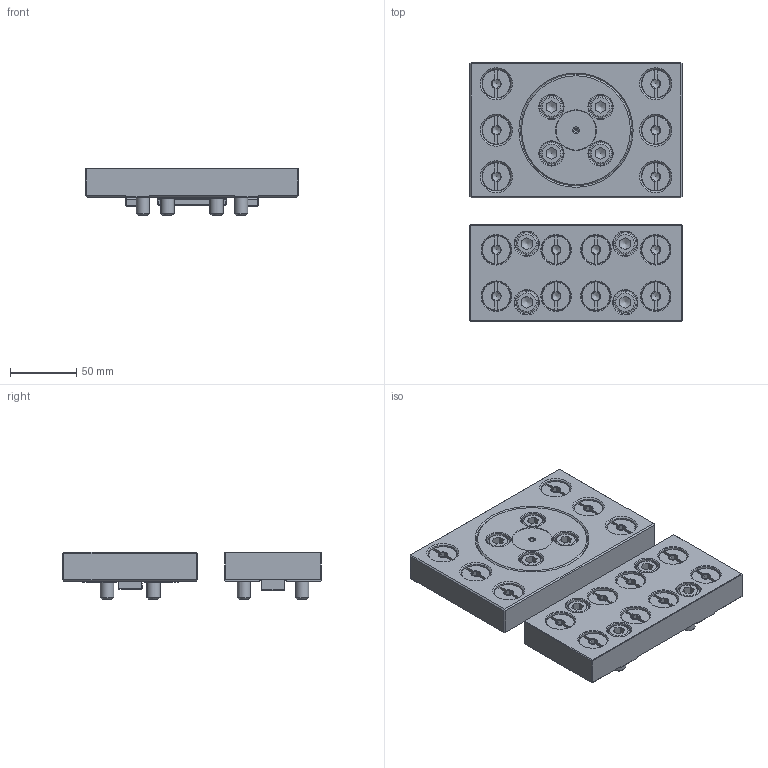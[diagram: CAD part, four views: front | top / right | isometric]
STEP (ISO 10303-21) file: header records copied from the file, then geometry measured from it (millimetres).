
FILE_DESCRIPTION(('STEP AP214'), '1');
FILE_NAME('BB.VS.100.32.010', '', ('UNSPECIFIED'), ('UNSPECIFIED'), 'C3D Converter', 'C3D Toolkit', '');
FILE_SCHEMA(('AUTOMOTIVE_DESIGN { 1 0 10303 214 3 1 1}'));
Length unit declared in the file: millimetre
Products named in the file (1): BB.VS.100.32.010 СБ
Bounding box: 160 x 195 x 36 mm (x, y, z)
Volume: 588993.5 mm3; surface area: 116851.1 mm2
Topology: 2 solids, 10 shells, 943 faces, 2238 edges, 1374 vertices
Faces by surface type: plane 619, cone 192, cylinder 102, torus 30
Full cylindrical faces by diameter (mm): 1.6 x2, 10 x16, 10.106 x22, 11 x8, 16 x8, 18 x8, 21.5 x14, 22 x14
Entity records: 38443 total; most frequent: CARTESIAN_POINT 10380, DIRECTION 4222, ORIENTED_EDGE 3936, EDGE_CURVE 1968, AXIS2_PLACEMENT_3D 1614, VERTEX_POINT 1350, EDGE_LOOP 1264, LINE 994
